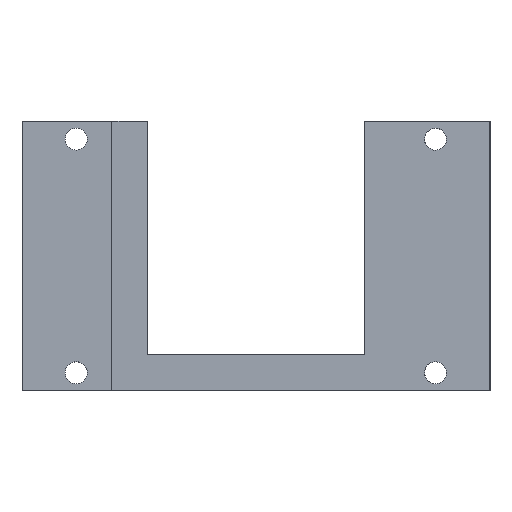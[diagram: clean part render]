
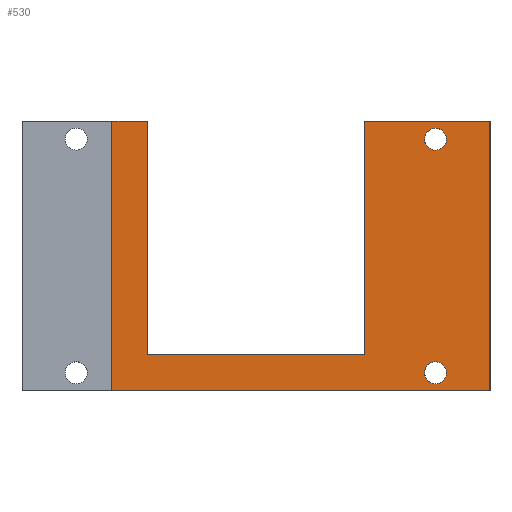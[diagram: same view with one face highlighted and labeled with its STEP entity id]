
A CAD part, top view. The second image highlights one B-rep face of the part: STEP entity #530.
In plain terms, the highlighted planar face has unit normal (0, 0, 1).
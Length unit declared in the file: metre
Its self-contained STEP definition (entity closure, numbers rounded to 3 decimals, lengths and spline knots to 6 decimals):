
#53=LINE('',#789,#105);
#62=LINE('',#807,#114);
#65=LINE('',#817,#117);
#71=LINE('',#830,#123);
#80=LINE('',#870,#132);
#81=LINE('',#872,#133);
#82=LINE('',#874,#134);
#83=LINE('',#876,#135);
#105=VECTOR('',#634,1.);
#114=VECTOR('',#645,1.);
#117=VECTOR('',#654,1.);
#123=VECTOR('',#666,1.);
#132=VECTOR('',#717,1.);
#133=VECTOR('',#720,1.);
#134=VECTOR('',#723,1.);
#135=VECTOR('',#726,1.);
#254=ORIENTED_EDGE('',*,*,#337,.T.);
#255=ORIENTED_EDGE('',*,*,#338,.T.);
#256=ORIENTED_EDGE('',*,*,#300,.F.);
#257=ORIENTED_EDGE('',*,*,#339,.T.);
#258=ORIENTED_EDGE('',*,*,#321,.F.);
#259=ORIENTED_EDGE('',*,*,#340,.F.);
#260=ORIENTED_EDGE('',*,*,#314,.F.);
#261=ORIENTED_EDGE('',*,*,#341,.T.);
#262=ORIENTED_EDGE('',*,*,#309,.T.);
#263=ORIENTED_EDGE('',*,*,#342,.F.);
#300=EDGE_CURVE('',#366,#367,#53,.T.);
#309=EDGE_CURVE('',#375,#374,#62,.T.);
#314=EDGE_CURVE('',#378,#379,#65,.T.);
#321=EDGE_CURVE('',#382,#383,#71,.T.);
#337=EDGE_CURVE('',#391,#391,#397,.T.);
#338=EDGE_CURVE('',#392,#392,#398,.T.);
#339=EDGE_CURVE('',#366,#383,#80,.T.);
#340=EDGE_CURVE('',#379,#382,#81,.T.);
#341=EDGE_CURVE('',#378,#375,#82,.T.);
#342=EDGE_CURVE('',#367,#374,#83,.T.);
#366=VERTEX_POINT('',#788);
#367=VERTEX_POINT('',#790);
#374=VERTEX_POINT('',#806);
#375=VERTEX_POINT('',#808);
#378=VERTEX_POINT('',#816);
#379=VERTEX_POINT('',#818);
#382=VERTEX_POINT('',#829);
#383=VERTEX_POINT('',#831);
#391=VERTEX_POINT('',#865);
#392=VERTEX_POINT('',#868);
#397=ELLIPSE('',#581,0.00155,0.00155);
#398=ELLIPSE('',#583,0.00155,0.00155);
#434=EDGE_LOOP('',(#254));
#435=EDGE_LOOP('',(#255));
#436=EDGE_LOOP('',(#256,#257,#258,#259,#260,#261,#262,#263));
#479=FACE_BOUND('',#434,.T.);
#480=FACE_BOUND('',#435,.T.);
#481=FACE_BOUND('',#436,.T.);
#505=PLANE('',#587);
#530=ADVANCED_FACE('',(#479,#480,#481),#505,.F.);
#581=AXIS2_PLACEMENT_3D('',#864,#709,#710);
#583=AXIS2_PLACEMENT_3D('',#867,#713,#714);
#587=AXIS2_PLACEMENT_3D('',#875,#724,#725);
#634=DIRECTION('',(-1.,0.,0.));
#645=DIRECTION('',(-1.,0.,0.));
#654=DIRECTION('',(1.,0.,0.));
#666=DIRECTION('',(1.,0.,0.));
#709=DIRECTION('',(0.,0.,-1.));
#710=DIRECTION('',(-1.,0.,0.));
#713=DIRECTION('',(0.,0.,-1.));
#714=DIRECTION('',(-1.,0.,0.));
#717=DIRECTION('',(0.,1.,0.));
#720=DIRECTION('',(0.,1.,0.));
#723=DIRECTION('',(0.,1.,0.));
#724=DIRECTION('',(0.,0.,-1.));
#725=DIRECTION('',(-1.,0.,0.));
#726=DIRECTION('',(0.,1.,0.));
#788=CARTESIAN_POINT('',(0.033082,-0.0381,0.028003));
#789=CARTESIAN_POINT('',(-0.017845,-0.0381,0.028003));
#790=CARTESIAN_POINT('',(-0.020385,-0.0381,0.028003));
#806=CARTESIAN_POINT('',(-0.020385,0.,0.028003));
#807=CARTESIAN_POINT('',(-0.017845,0.,0.028003));
#808=CARTESIAN_POINT('',(-0.015305,0.,0.028003));
#816=CARTESIAN_POINT('',(-0.015305,-0.03302,0.028003));
#817=CARTESIAN_POINT('',(-0.020385,-0.03302,0.028003));
#818=CARTESIAN_POINT('',(0.015302,-0.03302,0.028003));
#829=CARTESIAN_POINT('',(0.015302,0.,0.028003));
#830=CARTESIAN_POINT('',(0.017842,0.,0.028003));
#831=CARTESIAN_POINT('',(0.033082,0.,0.028003));
#864=CARTESIAN_POINT('',(0.025381,-0.00254,0.028003));
#865=CARTESIAN_POINT('',(0.023831,-0.00254,0.028003));
#867=CARTESIAN_POINT('',(0.025381,-0.03556,0.028003));
#868=CARTESIAN_POINT('',(0.023831,-0.03556,0.028003));
#870=CARTESIAN_POINT('',(0.033082,-0.0381,0.028003));
#872=CARTESIAN_POINT('',(0.015302,-0.0381,0.028003));
#874=CARTESIAN_POINT('',(-0.015305,-0.0381,0.028003));
#875=CARTESIAN_POINT('',(-0.017845,-0.0381,0.028003));
#876=CARTESIAN_POINT('',(-0.020385,-0.0381,0.028003));
